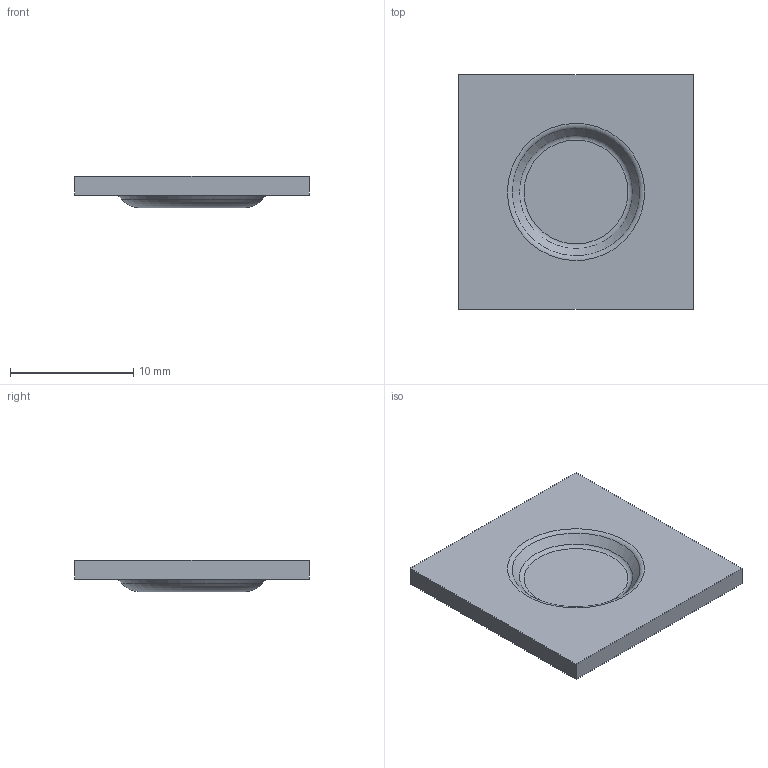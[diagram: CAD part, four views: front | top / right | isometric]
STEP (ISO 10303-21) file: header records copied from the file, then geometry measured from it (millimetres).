
FILE_DESCRIPTION((''),'1');
FILE_NAME('C:/Users/ericfrey.TRIAX/Documents/Desktop/TEK PIMPLE.stp', '2014-06-19T15:32:50',(''), (''), 'KCM Version 1.1.1028.0', 'Kubotek KeyCreator', '');
FILE_SCHEMA(('AUTOMOTIVE_DESIGN'));
Length unit declared in the file: inch
Bounding box: 19.05 x 19.05 x 2.54 mm (x, y, z)
Volume: 572.5 mm3; surface area: 866.6 mm2
Topology: 1 solids, 1 shells, 13 faces, 30 edges, 21 vertices
Faces by surface type: plane 8, torus 3, cone 2
Entity records: 384 total; most frequent: DIRECTION 64, CARTESIAN_POINT 60, ORIENTED_EDGE 60, EDGE_CURVE 30, AXIS2_PLACEMENT_3D 25, VERTEX_POINT 21, EDGE_LOOP 15, VECTOR 14
